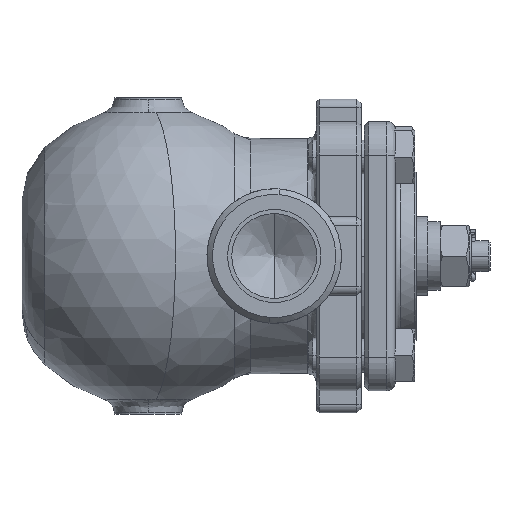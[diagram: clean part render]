
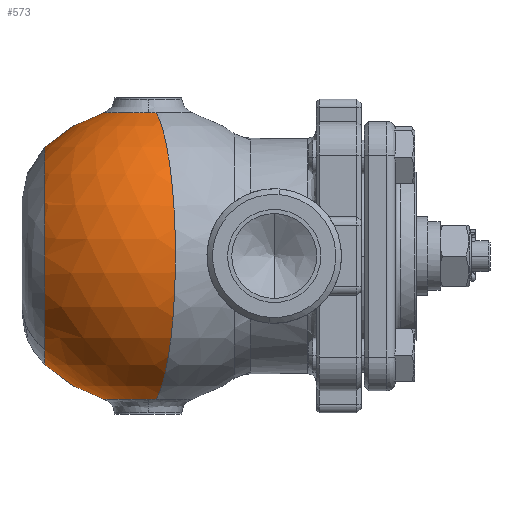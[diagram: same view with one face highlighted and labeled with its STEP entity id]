
A CAD part, left-side view. The second image highlights one B-rep face of the part: STEP entity #573.
In plain terms, the highlighted spherical face has radius 53.5 mm.
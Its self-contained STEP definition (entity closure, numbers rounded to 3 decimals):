
#573=ADVANCED_FACE('',(#5250,#5251),#5249,.T.);
#5249=SPHERICAL_SURFACE('',#9095,53.5);
#5250=FACE_OUTER_BOUND('',#9096,.T.);
#5251=FACE_BOUND('',#9097,.T.);
#9092=CARTESIAN_POINT('',(0.,67.3,0.049));
#9093=DIRECTION('',(0.,0.,-1.));
#9094=DIRECTION('',(-0.983,-0.182,0.));
#9095=AXIS2_PLACEMENT_3D('',#9092,#9093,#9094);
#9096=EDGE_LOOP('',(#11827,#11828,#11829,#11830,#11831,#11832,#11833,#11834,#11835,#11836));
#9097=EDGE_LOOP('',(#11837,#11838,#11839,#11840,#11841,#11842));
#11827=ORIENTED_EDGE('',*,*,#13153,.F.);
#11828=ORIENTED_EDGE('',*,*,#13154,.F.);
#11829=ORIENTED_EDGE('',*,*,#13155,.F.);
#11830=ORIENTED_EDGE('',*,*,#13156,.F.);
#11831=ORIENTED_EDGE('',*,*,#13148,.T.);
#11832=ORIENTED_EDGE('',*,*,#13157,.F.);
#11833=ORIENTED_EDGE('',*,*,#13158,.F.);
#11834=ORIENTED_EDGE('',*,*,#13159,.F.);
#11835=ORIENTED_EDGE('',*,*,#13160,.F.);
#11836=ORIENTED_EDGE('',*,*,#13152,.F.);
#11837=ORIENTED_EDGE('',*,*,#13161,.F.);
#11838=ORIENTED_EDGE('',*,*,#13162,.F.);
#11839=ORIENTED_EDGE('',*,*,#13163,.F.);
#11840=ORIENTED_EDGE('',*,*,#13164,.F.);
#11841=ORIENTED_EDGE('',*,*,#13165,.F.);
#11842=ORIENTED_EDGE('',*,*,#13166,.F.);
#13148=EDGE_CURVE('',#21098,#21091,#21099,.T.);
#13152=EDGE_CURVE('',#21119,#21070,#21126,.T.);
#13153=EDGE_CURVE('',#21132,#21119,#21133,.T.);
#13154=EDGE_CURVE('',#21139,#21132,#21140,.T.);
#13155=EDGE_CURVE('',#21146,#21139,#21147,.T.);
#13156=EDGE_CURVE('',#21098,#21146,#21153,.T.);
#13157=EDGE_CURVE('',#21159,#21091,#21160,.T.);
#13158=EDGE_CURVE('',#21166,#21159,#21167,.T.);
#13159=EDGE_CURVE('',#21173,#21166,#21174,.T.);
#13160=EDGE_CURVE('',#21070,#21173,#21180,.T.);
#13161=EDGE_CURVE('',#21186,#21187,#21188,.T.);
#13162=EDGE_CURVE('',#21194,#21186,#21195,.T.);
#13163=EDGE_CURVE('',#21201,#21194,#21202,.T.);
#13164=EDGE_CURVE('',#21208,#21201,#21209,.T.);
#13165=EDGE_CURVE('',#21215,#21208,#21216,.T.);
#13166=EDGE_CURVE('',#21187,#21215,#21222,.T.);
#21070=VERTEX_POINT('',#26975);
#21091=VERTEX_POINT('',#26990);
#21098=VERTEX_POINT('',#26995);
#21099=(BOUNDED_CURVE() B_SPLINE_CURVE(2,(#26996,#26997,#26998,#26999,#27000),.UNSPECIFIED.,.F.,.F.) B_SPLINE_CURVE_WITH_KNOTS((3,2,3),(0.,0.5,1.),.UNSPECIFIED.) CURVE() GEOMETRIC_REPRESENTATION_ITEM() RATIONAL_B_SPLINE_CURVE((1.,0.803,1.,0.803,1.)) REPRESENTATION_ITEM('') );
#21119=VERTEX_POINT('',#27009);
#21126=(BOUNDED_CURVE() B_SPLINE_CURVE(2,(#27014,#27015,#27016,#27017,#27018),.UNSPECIFIED.,.F.,.F.) B_SPLINE_CURVE_WITH_KNOTS((3,2,3),(0.,0.5,1.),.UNSPECIFIED.) CURVE() GEOMETRIC_REPRESENTATION_ITEM() RATIONAL_B_SPLINE_CURVE((0.75,0.602,0.75,0.602,0.75)) REPRESENTATION_ITEM('') );
#21132=VERTEX_POINT('',#27019);
#21133=CIRCLE('',#27023,15.547);
#21139=VERTEX_POINT('',#27024);
#21140=CIRCLE('',#27028,15.547);
#21146=VERTEX_POINT('',#27029);
#21147=CIRCLE('',#27033,15.547);
#21153=CIRCLE('',#27037,15.547);
#21159=VERTEX_POINT('',#27038);
#21160=CIRCLE('',#27042,15.547);
#21166=VERTEX_POINT('',#27043);
#21167=CIRCLE('',#27047,15.547);
#21173=VERTEX_POINT('',#27048);
#21174=CIRCLE('',#27052,15.547);
#21180=CIRCLE('',#27056,15.547);
#21186=VERTEX_POINT('',#27057);
#21187=VERTEX_POINT('',#27058);
#21188=CIRCLE('',#27062,38.678);
#21194=VERTEX_POINT('',#27063);
#21195=CIRCLE('',#27067,38.677);
#21201=VERTEX_POINT('',#27068);
#21202=CIRCLE('',#27072,38.677);
#21208=VERTEX_POINT('',#27073);
#21209=CIRCLE('',#27077,38.677);
#21215=VERTEX_POINT('',#27078);
#21216=CIRCLE('',#27082,38.678);
#21222=CIRCLE('',#27086,38.678);
#26975=CARTESIAN_POINT('',(-15.287,64.468,-51.142));
#26990=CARTESIAN_POINT('',(15.287,70.133,-51.142));
#26995=CARTESIAN_POINT('',(15.287,70.133,51.24));
#26996=CARTESIAN_POINT('',(15.287,70.133,51.24));
#26997=CARTESIAN_POINT('',(52.604,77.05,39.714));
#26998=CARTESIAN_POINT('',(52.604,77.05,0.049));
#26999=CARTESIAN_POINT('',(52.604,77.05,-39.616));
#27000=CARTESIAN_POINT('',(15.287,70.133,-51.142));
#27009=CARTESIAN_POINT('',(-15.287,64.466,51.24));
#27014=CARTESIAN_POINT('',(-15.286,64.467,51.24));
#27015=CARTESIAN_POINT('',(-52.604,57.55,39.714));
#27016=CARTESIAN_POINT('',(-52.604,57.55,0.049));
#27017=CARTESIAN_POINT('',(-52.604,57.55,-39.616));
#27018=CARTESIAN_POINT('',(-15.286,64.467,-51.143));
#27019=CARTESIAN_POINT('',(-15.547,67.3,51.24));
#27020=CARTESIAN_POINT('',(0.,67.3,51.24));
#27021=DIRECTION('',(0.,0.,1.));
#27022=DIRECTION('',(0.962,-0.273,0.));
#27023=AXIS2_PLACEMENT_3D('',#27020,#27021,#27022);
#27024=CARTESIAN_POINT('',(-14.957,71.544,51.24));
#27025=CARTESIAN_POINT('',(0.,67.3,51.24));
#27026=DIRECTION('',(0.,0.,1.));
#27027=DIRECTION('',(0.962,-0.273,0.));
#27028=AXIS2_PLACEMENT_3D('',#27025,#27026,#27027);
#27029=CARTESIAN_POINT('',(0.,82.847,51.24));
#27030=CARTESIAN_POINT('',(0.,67.3,51.24));
#27031=DIRECTION('',(0.,0.,1.));
#27032=DIRECTION('',(0.,-1.,0.));
#27033=AXIS2_PLACEMENT_3D('',#27030,#27031,#27032);
#27034=CARTESIAN_POINT('',(0.,67.3,51.24));
#27035=DIRECTION('',(0.,0.,1.));
#27036=DIRECTION('',(-0.962,0.273,0.));
#27037=AXIS2_PLACEMENT_3D('',#27034,#27035,#27036);
#27038=CARTESIAN_POINT('',(14.957,71.544,-51.142));
#27039=CARTESIAN_POINT('',(0.,67.3,-51.142));
#27040=DIRECTION('',(0.,0.,-1.));
#27041=DIRECTION('',(-0.962,-0.273,0.));
#27042=AXIS2_PLACEMENT_3D('',#27039,#27040,#27041);
#27043=CARTESIAN_POINT('',(0.,82.847,-51.142));
#27044=CARTESIAN_POINT('',(0.,67.3,-51.142));
#27045=DIRECTION('',(0.,0.,-1.));
#27046=DIRECTION('',(0.,-1.,0.));
#27047=AXIS2_PLACEMENT_3D('',#27044,#27045,#27046);
#27048=CARTESIAN_POINT('',(-15.547,67.3,-51.142));
#27049=CARTESIAN_POINT('',(0.,67.3,-51.142));
#27050=DIRECTION('',(0.,0.,-1.));
#27051=DIRECTION('',(0.962,0.273,0.));
#27052=AXIS2_PLACEMENT_3D('',#27049,#27050,#27051);
#27053=CARTESIAN_POINT('',(0.,67.3,-51.142));
#27054=DIRECTION('',(0.,0.,-1.));
#27055=DIRECTION('',(0.962,0.273,0.));
#27056=AXIS2_PLACEMENT_3D('',#27053,#27054,#27055);
#27057=CARTESIAN_POINT('',(38.677,104.264,0.049));
#27058=CARTESIAN_POINT('',(0.,104.263,-38.629));
#27059=CARTESIAN_POINT('',(0.,104.263,0.049));
#27060=DIRECTION('',(0.,1.,0.));
#27061=DIRECTION('',(-1.,0.,0.));
#27062=AXIS2_PLACEMENT_3D('',#27059,#27060,#27061);
#27063=CARTESIAN_POINT('',(19.339,104.264,33.544));
#27064=CARTESIAN_POINT('',(0.,104.264,0.049));
#27065=DIRECTION('',(0.,1.,0.));
#27066=DIRECTION('',(0.,0.,-1.));
#27067=AXIS2_PLACEMENT_3D('',#27064,#27065,#27066);
#27068=CARTESIAN_POINT('',(0.,104.264,38.726));
#27069=CARTESIAN_POINT('',(0.,104.264,0.049));
#27070=DIRECTION('',(0.,1.,0.));
#27071=DIRECTION('',(0.,0.,-1.));
#27072=AXIS2_PLACEMENT_3D('',#27069,#27070,#27071);
#27073=CARTESIAN_POINT('',(-38.678,104.263,0.049));
#27074=CARTESIAN_POINT('',(0.,104.264,0.049));
#27075=DIRECTION('',(0.,1.,0.));
#27076=DIRECTION('',(1.,0.,0.));
#27077=AXIS2_PLACEMENT_3D('',#27074,#27075,#27076);
#27078=CARTESIAN_POINT('',(-19.339,104.263,-33.447));
#27079=CARTESIAN_POINT('',(0.,104.263,0.049));
#27080=DIRECTION('',(0.,1.,0.));
#27081=DIRECTION('',(0.,0.,1.));
#27082=AXIS2_PLACEMENT_3D('',#27079,#27080,#27081);
#27083=CARTESIAN_POINT('',(0.,104.263,0.049));
#27084=DIRECTION('',(0.,1.,0.));
#27085=DIRECTION('',(0.,0.,1.));
#27086=AXIS2_PLACEMENT_3D('',#27083,#27084,#27085);
